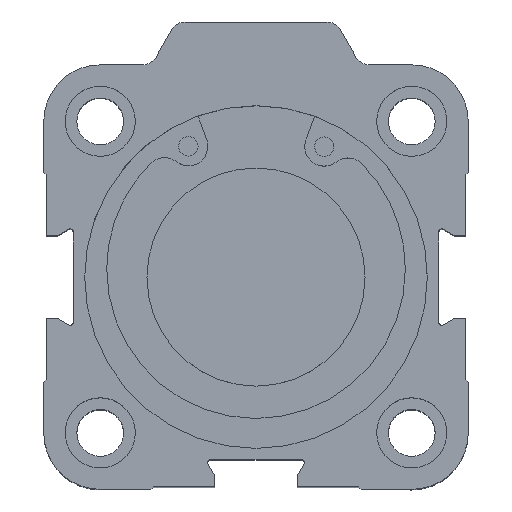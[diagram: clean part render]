
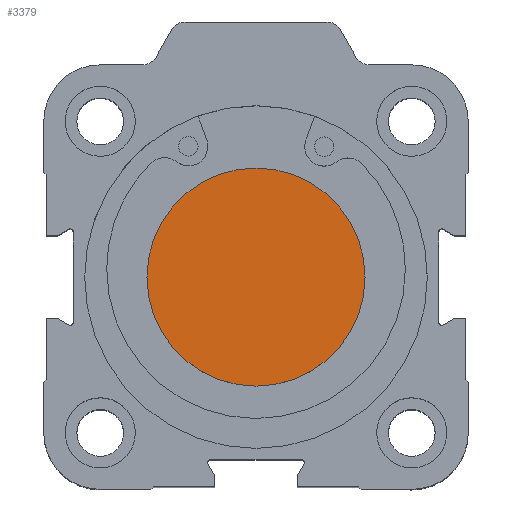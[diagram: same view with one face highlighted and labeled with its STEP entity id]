
A CAD part, top view. The second image highlights one B-rep face of the part: STEP entity #3379.
In plain terms, the highlighted planar face has unit normal (0, 0, 1).
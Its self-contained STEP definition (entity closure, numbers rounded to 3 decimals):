
#731=CARTESIAN_POINT('',(0.868,28.167,25.1));
#732=VERTEX_POINT('',#731);
#748=CARTESIAN_POINT('',(-27.132,28.167,25.1));
#749=VERTEX_POINT('',#748);
#756=CARTESIAN_POINT('',(-13.132,28.167,25.1));
#757=DIRECTION('',(0.0,0.0,1.0));
#758=DIRECTION('',(1.0,0.0,0.0));
#759=AXIS2_PLACEMENT_3D('',#756,#757,#758);
#760=CIRCLE('',#759,14.0);
#761=EDGE_CURVE('',#732,#749,#760,.T.);
#3328=CARTESIAN_POINT('',(-13.132,28.167,25.1));
#3329=DIRECTION('',(0.0,0.0,1.0));
#3330=DIRECTION('',(1.0,0.0,0.0));
#3331=AXIS2_PLACEMENT_3D('',#3328,#3329,#3330);
#3332=CIRCLE('',#3331,14.0);
#3333=EDGE_CURVE('',#749,#732,#3332,.T.);
#3370=CARTESIAN_POINT('',(0.7,-2.301,25.1));
#3371=DIRECTION('',(0.0,0.0,1.0));
#3372=DIRECTION('',(1.0,0.0,0.0));
#3373=AXIS2_PLACEMENT_3D('',#3370,#3371,#3372);
#3374=PLANE('',#3373);
#3375=ORIENTED_EDGE('',*,*,#761,.T.);
#3376=ORIENTED_EDGE('',*,*,#3333,.T.);
#3377=EDGE_LOOP('',(#3375,#3376));
#3378=FACE_OUTER_BOUND('',#3377,.T.);
#3379=ADVANCED_FACE('',(#3378),#3374,.T.);
